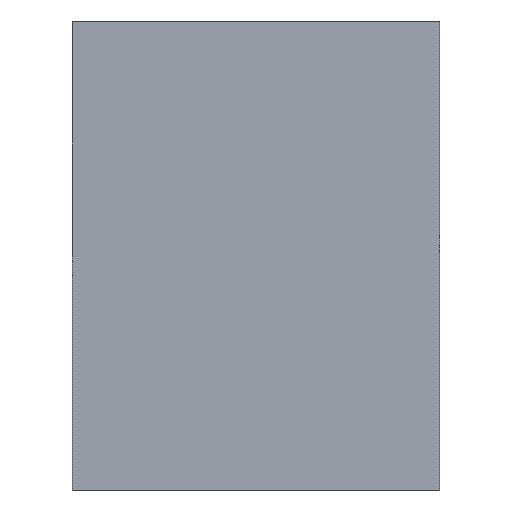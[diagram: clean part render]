
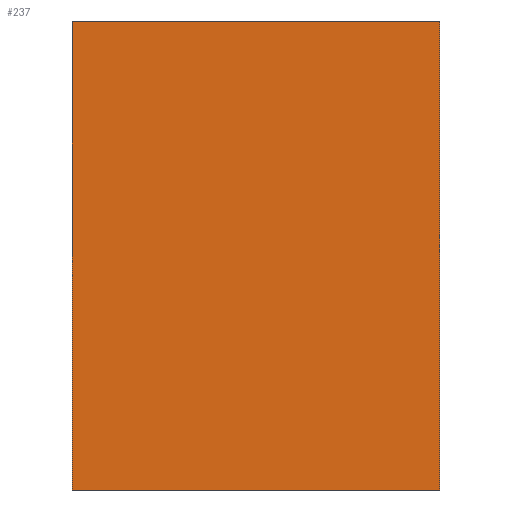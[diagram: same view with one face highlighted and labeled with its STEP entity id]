
A CAD part, left-side view. The second image highlights one B-rep face of the part: STEP entity #237.
In plain terms, the highlighted planar face has unit normal (-1, 0, 0).
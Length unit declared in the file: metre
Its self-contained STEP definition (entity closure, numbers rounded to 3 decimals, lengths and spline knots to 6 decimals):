
#19=LINE('',#1092,#33);
#22=LINE('',#1275,#36);
#23=LINE('',#1277,#37);
#24=LINE('',#1279,#38);
#33=VECTOR('',#389,1.);
#36=VECTOR('',#398,1.);
#37=VECTOR('',#401,1.);
#38=VECTOR('',#402,1.);
#47=PLANE('',#353);
#108=ORIENTED_EDGE('',*,*,#142,.T.);
#109=ORIENTED_EDGE('',*,*,#147,.F.);
#110=ORIENTED_EDGE('',*,*,#148,.F.);
#111=ORIENTED_EDGE('',*,*,#146,.T.);
#142=EDGE_CURVE('',#167,#166,#19,.T.);
#146=EDGE_CURVE('',#168,#167,#22,.T.);
#147=EDGE_CURVE('',#169,#166,#23,.T.);
#148=EDGE_CURVE('',#168,#169,#24,.T.);
#166=VERTEX_POINT('',#1091);
#167=VERTEX_POINT('',#1093);
#168=VERTEX_POINT('',#1274);
#169=VERTEX_POINT('',#1278);
#189=EDGE_LOOP('',(#108,#109,#110,#111));
#205=FACE_BOUND('',#189,.T.);
#237=ADVANCED_FACE('',(#205),#47,.T.);
#353=AXIS2_PLACEMENT_3D('',#1276,#399,#400);
#389=DIRECTION('',(0.,1.,0.));
#398=DIRECTION('',(0.,0.,1.));
#399=DIRECTION('',(-1.,0.,0.));
#400=DIRECTION('',(0.,0.,1.));
#401=DIRECTION('',(0.,0.,1.));
#402=DIRECTION('',(0.,1.,0.));
#1091=CARTESIAN_POINT('',(-0.0435,0.01375,0.0175));
#1092=CARTESIAN_POINT('',(-0.0435,-0.01375,0.0175));
#1093=CARTESIAN_POINT('',(-0.0435,-0.01375,0.0175));
#1274=CARTESIAN_POINT('',(-0.0435,-0.01375,-0.0175));
#1275=CARTESIAN_POINT('',(-0.0435,-0.01375,-0.0175));
#1276=CARTESIAN_POINT('',(-0.0435,-0.01375,-0.0175));
#1277=CARTESIAN_POINT('',(-0.0435,0.01375,-0.0175));
#1278=CARTESIAN_POINT('',(-0.0435,0.01375,-0.0175));
#1279=CARTESIAN_POINT('',(-0.0435,-0.01375,-0.0175));
